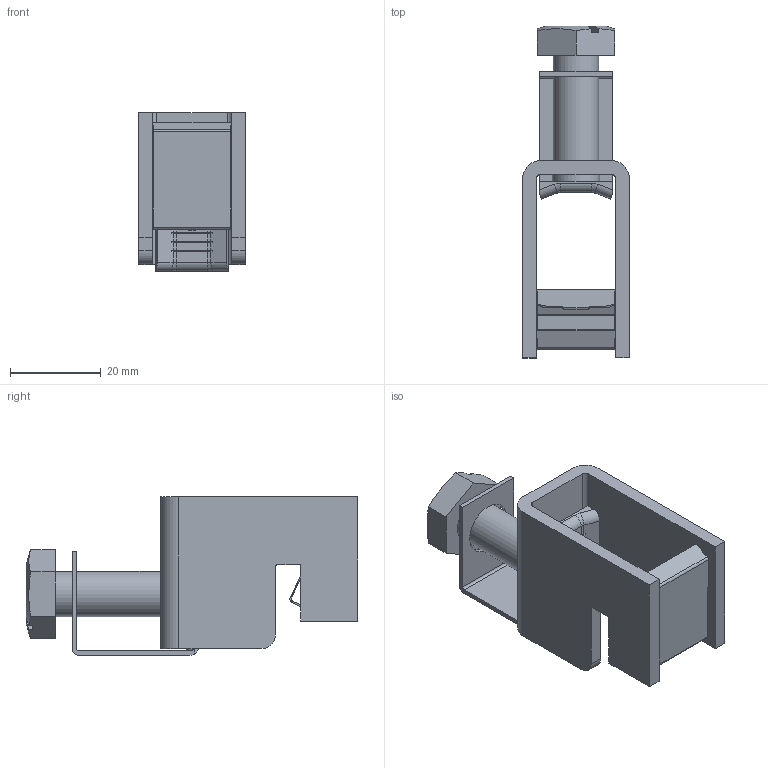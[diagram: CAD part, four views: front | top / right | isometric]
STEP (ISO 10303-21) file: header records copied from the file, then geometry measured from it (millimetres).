
FILE_DESCRIPTION (( 'STEP AP214' ), '1' );
FILE_NAME ('54068.STEP', '2020-11-25T05:14:47', ( '' ), ( '' ), 'SwSTEP 2.0', 'SolidWorks 2017', '' );
FILE_SCHEMA (( 'AUTOMOTIVE_DESIGN' ));
Length unit declared in the file: millimetre
Products named in the file (2): 54068
Bounding box: 23.5 x 73.2 x 35 mm (x, y, z)
Volume: 14328 mm3; surface area: 13229.2 mm2
Topology: 4 solids, 4 shells, 417 faces, 1049 edges, 652 vertices
Faces by surface type: plane 247, cylinder 84, cone 44, bspline 42
Full cylindrical faces by diameter (mm): 8.8 x1, 10 x1, 10.5 x1, 11.5 x1
Entity records: 18444 total; most frequent: CARTESIAN_POINT 4148, ORIENTED_EDGE 2086, DIRECTION 1889, EDGE_CURVE 1043, LINE 759, VECTOR 759, VERTEX_POINT 652, AXIS2_PLACEMENT_3D 565
